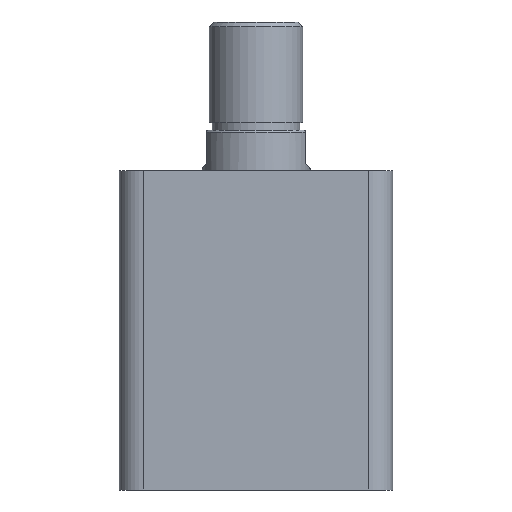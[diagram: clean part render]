
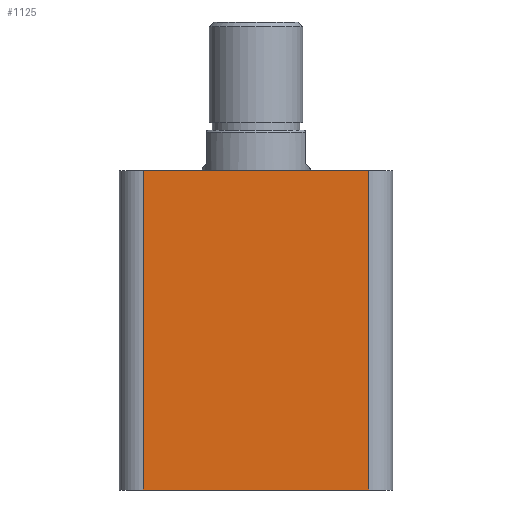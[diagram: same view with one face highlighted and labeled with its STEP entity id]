
A CAD part, front view. The second image highlights one B-rep face of the part: STEP entity #1125.
In plain terms, the highlighted planar face has unit normal (0, -1, 0).
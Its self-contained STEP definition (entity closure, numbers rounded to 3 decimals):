
#194 = EDGE_LOOP ( 'NONE', ( #759, #757, #783, #806 ) ) ;
#297 = DIRECTION ( 'NONE',  ( 0., 0., 1. ) ) ;
#299 = DIRECTION ( 'NONE',  ( 0., 1., 0. ) ) ;
#301 = PLANE ( 'NONE',  #1688 ) ;
#304 = CARTESIAN_POINT ( 'NONE',  ( -57., -57., 133. ) ) ;
#620 = LINE ( 'NONE', #1891, #626 ) ;
#626 = VECTOR ( 'NONE', #1898, 1000. ) ;
#628 = LINE ( 'NONE', #1899, #630 ) ;
#630 = VECTOR ( 'NONE', #1900, 1000. ) ;
#757 = ORIENTED_EDGE ( 'NONE', *, *, #1530, .T. ) ;
#759 = ORIENTED_EDGE ( 'NONE', *, *, #1528, .T. ) ;
#783 = ORIENTED_EDGE ( 'NONE', *, *, #2198, .F. ) ;
#806 = ORIENTED_EDGE ( 'NONE', *, *, #2195, .T. ) ;
#844 = LINE ( 'NONE', #964, #1295 ) ;
#964 = CARTESIAN_POINT ( 'NONE',  ( -57., -57., 0. ) ) ;
#970 = DIRECTION ( 'NONE',  ( 1., 0., 0. ) ) ;
#972 = CARTESIAN_POINT ( 'NONE',  ( 47., -57., 133. ) ) ;
#973 = DIRECTION ( 'NONE',  ( 0., 0., 1. ) ) ;
#1125 = ADVANCED_FACE ( 'NONE', ( #1227 ), #301, .F. ) ;
#1227 = FACE_OUTER_BOUND ( 'NONE', #194, .T. ) ;
#1293 = LINE ( 'NONE', #972, #2172 ) ;
#1295 = VECTOR ( 'NONE', #970, 1000. ) ;
#1528 = EDGE_CURVE ( 'NONE', #2081, #2092, #844, .T. ) ;
#1530 = EDGE_CURVE ( 'NONE', #2092, #2098, #1293, .T. ) ;
#1688 = AXIS2_PLACEMENT_3D ( 'NONE', #304, #299, #297 ) ;
#1805 = CARTESIAN_POINT ( 'NONE',  ( -47., -57., 133. ) ) ;
#1811 = CARTESIAN_POINT ( 'NONE',  ( -47., -57., 0. ) ) ;
#1822 = CARTESIAN_POINT ( 'NONE',  ( 47., -57., 0. ) ) ;
#1828 = CARTESIAN_POINT ( 'NONE',  ( 47., -57., 133. ) ) ;
#1891 = CARTESIAN_POINT ( 'NONE',  ( -47., -57., 133. ) ) ;
#1898 = DIRECTION ( 'NONE',  ( 0., 0., -1. ) ) ;
#1899 = CARTESIAN_POINT ( 'NONE',  ( -57., -57., 133. ) ) ;
#1900 = DIRECTION ( 'NONE',  ( 1., 0., 0. ) ) ;
#2075 = VERTEX_POINT ( 'NONE', #1805 ) ;
#2081 = VERTEX_POINT ( 'NONE', #1811 ) ;
#2092 = VERTEX_POINT ( 'NONE', #1822 ) ;
#2098 = VERTEX_POINT ( 'NONE', #1828 ) ;
#2172 = VECTOR ( 'NONE', #973, 1000. ) ;
#2195 = EDGE_CURVE ( 'NONE', #2075, #2081, #620, .T. ) ;
#2198 = EDGE_CURVE ( 'NONE', #2075, #2098, #628, .T. ) ;
